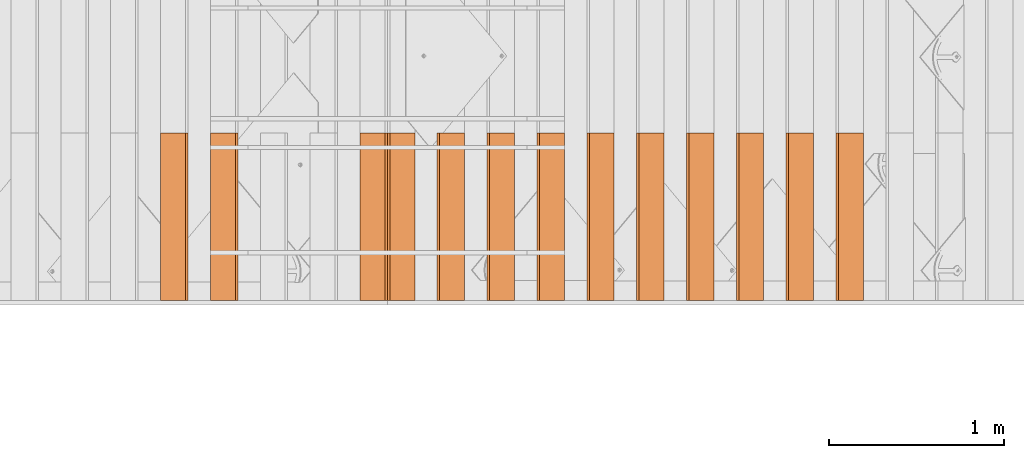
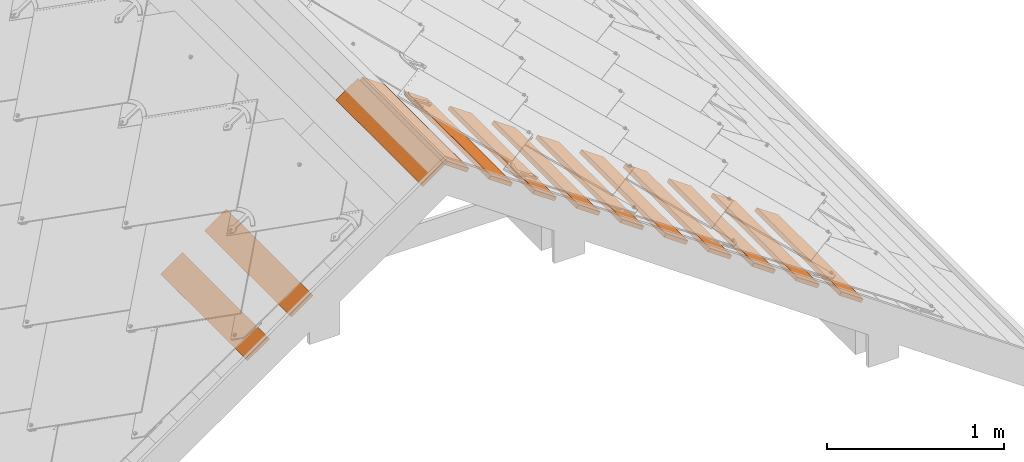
# One storey, part 114 of 151: 13 proxies, 1 element without a shape of its own.
"""IFC2X3 building model written with IfcOpenShell, lengths in millimetres."""

import ifcopenshell
import ifcopenshell.guid

model = None  # the IFC model being written
_history = None  # IfcOwnerHistory: only IFC2X3 demands one
_inside = {}  # id of a spatial element -> (the spatial element, [elements in it])
_under = {}  # id of a project, library or spatial element -> (it, [spatial elements below it])
_declared = {}  # id of a project -> (the project, [libraries it declares])
_typed = {}  # id of a type object -> (the type object, [elements of that type])
_made_of = {}  # id of a material, layer set ... -> (it, [elements and type objects made of it])


def new_model(schema):
    """Start an empty IFC model of exactly this schema.

    Asked for "IFC4X3", IfcOpenShell would pick the latest addendum, in which some entities
    have other attributes; the version numbers below select the first issue.
    IFC2X3 requires an IfcOwnerHistory on every rooted entity: one is made here for all.
    """
    global model, _history
    if schema == "IFC4X3":
        model = ifcopenshell.file(schema_version=(4, 3, 0, 0))
    else:
        model = ifcopenshell.file(schema=schema)
    _inside.clear()
    _under.clear()
    _declared.clear()
    _typed.clear()
    _made_of.clear()
    _history = None
    if model.schema == "IFC2X3":
        org = make("IfcOrganization", Name="unknown")
        user = make(
            "IfcPersonAndOrganization",
            ThePerson=make("IfcPerson", FamilyName="unknown"),
            TheOrganization=org,
        )
        app = make(
            "IfcApplication",
            ApplicationDeveloper=org,
            Version="unknown",
            ApplicationFullName="unknown",
            ApplicationIdentifier="unknown",
        )
        _history = make(
            "IfcOwnerHistory",
            OwningUser=user,
            OwningApplication=app,
            ChangeAction="ADDED",
            CreationDate=0,
        )
    return model


def make(cls, **values):
    """One entity of the class cls with the attributes given. An attribute that is None is left unset."""
    return model.create_entity(
        cls, **{name: value for name, value in values.items() if value is not None}
    )


def entity(cls, *values):
    """Any entity or typed value of the class cls, its attributes in the order of the schema. None: left unset."""
    e = model.create_entity(cls)
    for i, value in enumerate(values):
        if value is not None:
            e[i] = value
    return e


def rooted(cls, **values):
    """An entity with a GlobalId (a new one), such as an element, a storey or a relation."""
    return make(cls, GlobalId=ifcopenshell.guid.new(), OwnerHistory=_history, **values)


def si_unit(unit_type, name, prefix=None):
    """IfcSIUnit, for example si_unit("LENGTHUNIT", "METRE", prefix="MILLI")."""
    return make("IfcSIUnit", UnitType=unit_type, Prefix=prefix, Name=name)


def converted_unit(unit_type, name, factor, base, dimensions=None, offset=None):
    """IfcConversionBasedUnit, such as the inch: factor (a typed value) times the base unit."""
    return make(
        "IfcConversionBasedUnit"
        if offset is None
        else "IfcConversionBasedUnitWithOffset",
        ConversionOffset=offset,
        Dimensions=None
        if dimensions is None
        else entity("IfcDimensionalExponents", *dimensions),
        UnitType=unit_type,
        Name=name,
        ConversionFactor=make(
            "IfcMeasureWithUnit", ValueComponent=factor, UnitComponent=base
        ),
    )


def derived_unit(unit_type, elements):
    """IfcDerivedUnit: a product of units, each with its exponent."""
    return make(
        "IfcDerivedUnit",
        Elements=[
            make("IfcDerivedUnitElement", Unit=unit, Exponent=power)
            for unit, power in elements
        ],
        UnitType=unit_type,
    )


def assignment(units):
    """IfcUnitAssignment: the units of a project."""
    return None if units is None else make("IfcUnitAssignment", Units=units)


def point(xyz):
    """IfcCartesianPoint."""
    return None if xyz is None else make("IfcCartesianPoint", Coordinates=xyz)


def direction(xyz):
    """IfcDirection."""
    return None if xyz is None else make("IfcDirection", DirectionRatios=xyz)


def frame(location, z_axis=None, x_axis=None):
    """IfcAxis2Placement3D, a coordinate frame: its origin and axes. An axis left out is left unset."""
    return make(
        "IfcAxis2Placement3D",
        Location=point(location),
        Axis=direction(z_axis),
        RefDirection=direction(x_axis),
    )


def frame_2d(location, x_axis=None):
    """IfcAxis2Placement2D, a coordinate frame in the plane: its origin and x axis."""
    return make(
        "IfcAxis2Placement2D", Location=point(location), RefDirection=direction(x_axis)
    )


def origin():
    """The frame at (0, 0, 0) with its axes left unset."""
    return frame((0.0, 0.0, 0.0))


def place(relative_to, where):
    """IfcLocalPlacement: puts the frame where relative to a parent placement (None: the world)."""
    return make(
        "IfcLocalPlacement", PlacementRelTo=relative_to, RelativePlacement=where
    )


def context(
    kind, dimensions, precision=None, world=None, true_north=None, identifier=None
):
    """IfcGeometricRepresentationContext, for example the 3D "Model" context."""
    return make(
        "IfcGeometricRepresentationContext",
        ContextIdentifier=identifier,
        ContextType=kind,
        CoordinateSpaceDimension=dimensions,
        Precision=precision,
        WorldCoordinateSystem=world,
        TrueNorth=true_north,
    )


def subcontext(parent, identifier, kind, view, scale=None):
    """IfcGeometricRepresentationSubContext, for example "Body" below "Model"."""
    return make(
        "IfcGeometricRepresentationSubContext",
        ContextIdentifier=identifier,
        ContextType=kind,
        ParentContext=parent,
        TargetScale=scale,
        TargetView=view,
    )


def project(units=None, contexts=None):
    """IfcProject with its units and contexts."""
    return rooted(
        "IfcProject",
        Name="project",
        RepresentationContexts=contexts,
        UnitsInContext=assignment(units),
    )


def spatial(cls, under=None, at=None, **own):
    """A site, building, storey or space (cls), placed at a placement, below another one or the project."""
    s = rooted(cls, ObjectPlacement=at, **own)
    if under is not None:
        _under.setdefault(under.id(), (under, []))[1].append(s)
    return s


def profile(cls, at=None, kind="AREA", **sizes):
    """A parametric profile (cls). Its sizes go by their IFC names, for example OverallWidth=200.0."""
    return make(cls, ProfileType=kind, Position=at, **sizes)


def rectangle(**sizes):
    """IfcRectangleProfileDef."""
    return profile("IfcRectangleProfileDef", **sizes)


def extrude(swept, where, along, depth):
    """IfcExtrudedAreaSolid: the profile swept, set in the frame where, extruded along a direction by depth."""
    return make(
        "IfcExtrudedAreaSolid",
        SweptArea=swept,
        Position=where,
        ExtrudedDirection=direction(along),
        Depth=depth,
    )


def shape(context_of_items, identifier, shape_type, items):
    """IfcShapeRepresentation: the items that make up one representation, for example the "Body"."""
    return make(
        "IfcShapeRepresentation",
        ContextOfItems=context_of_items,
        RepresentationIdentifier=identifier,
        RepresentationType=shape_type,
        Items=items,
    )


def source(mapping_origin, context_of_items, identifier, shape_type, items):
    """IfcRepresentationMap: a shape defined once, which mapped items show again and again."""
    return make(
        "IfcRepresentationMap",
        MappingOrigin=mapping_origin,
        MappedRepresentation=shape(context_of_items, identifier, shape_type, items),
    )


def transform(
    local_origin,
    x_axis=None,
    y_axis=None,
    z_axis=None,
    scale=None,
    scale2=None,
    scale3=None,
    uniform=True,
):
    """IfcCartesianTransformationOperator3D, or its non-uniform kind. x_axis, y_axis, z_axis: its Axis1, 2, 3."""
    if uniform:
        return make(
            "IfcCartesianTransformationOperator3D",
            Axis1=direction(x_axis),
            Axis2=direction(y_axis),
            LocalOrigin=point(local_origin),
            Scale=scale,
            Axis3=direction(z_axis),
        )
    return make(
        "IfcCartesianTransformationOperator3DnonUniform",
        Axis1=direction(x_axis),
        Axis2=direction(y_axis),
        LocalOrigin=point(local_origin),
        Scale=scale,
        Axis3=direction(z_axis),
        Scale2=scale2,
        Scale3=scale3,
    )


def mapped(mapping_source, mapping_target):
    """IfcMappedItem: shows the shape of a source again, moved by a transform."""
    return make(
        "IfcMappedItem", MappingSource=mapping_source, MappingTarget=mapping_target
    )


def material(Name=None, Category=None):
    """IfcMaterial."""
    return make("IfcMaterial", Name=Name, Category=Category)


def made_of(thing, what):
    """Note that an element or type object is made of a material, layer set ...; save() writes the relation."""
    if what is not None:
        _made_of.setdefault(what.id(), (what, []))[1].append(thing)
    return thing


def type_object(cls, material=None, **own):
    """A type object (cls), such as IfcWallType, which elements share."""
    return made_of(rooted(cls, **own), material)


def type_shapes(of_type, sources):
    """Give a type object the sources (RepresentationMaps) that its elements show as mapped items."""
    of_type.RepresentationMaps = sources


def element(
    cls,
    number,
    at=None,
    inside=None,
    cuts=None,
    type_object=None,
    material=None,
    context=None,
    identifier="Body",
    shape_type=None,
    held_by="IfcProductDefinitionShape",
    body=None,
    shapes=None,
    **own,
):
    """One element of the class cls, such as IfcWall. Its Tag is "e" and its number.

    at: its placement. inside: the storey or other place that contains it. cuts: it is an
    opening in that element (IfcRelVoidsElement). A single representation is given by context,
    identifier, shape_type and body (its items); several are given by shapes. held_by: the class
    of the entity that holds the representations. save() writes the other relations.
    """
    e = rooted(cls, Tag="e%d" % number, ObjectPlacement=at, **own)
    if body is not None:
        shapes = [shape(context, identifier, shape_type, body)]
    if shapes is not None:
        e.Representation = make(held_by, Representations=shapes)
    if inside is not None:
        _inside.setdefault(inside.id(), (inside, []))[1].append(e)
    if cuts is not None:
        rooted(
            "IfcRelVoidsElement", RelatingBuildingElement=cuts, RelatedOpeningElement=e
        )
    if type_object is not None:
        _typed.setdefault(type_object.id(), (type_object, []))[1].append(e)
    return made_of(e, material)


def aggregate(whole, parts):
    """IfcRelAggregates: a whole, such as a stair, and the parts it consists of."""
    return rooted("IfcRelAggregates", RelatingObject=whole, RelatedObjects=parts)


def save(model, path):
    """Write the relations noted so far, then the file.

    IfcRelAggregates (storeys below a building ...), IfcRelContainedInSpatialStructure (elements
    in a storey), IfcRelDefinesByType, IfcRelAssociatesMaterial and IfcRelDeclares: one each for
    every whole, place, type object, material and project.
    """
    for whole, parts in _under.values():
        aggregate(whole, parts)
    for where, things in _inside.values():
        rooted(
            "IfcRelContainedInSpatialStructure",
            RelatedElements=things,
            RelatingStructure=where,
        )
    for kind, things in _typed.values():
        rooted("IfcRelDefinesByType", RelatedObjects=things, RelatingType=kind)
    for what, things in _made_of.values():
        rooted("IfcRelAssociatesMaterial", RelatedObjects=things, RelatingMaterial=what)
    for by, libraries in _declared.values():
        rooted("IfcRelDeclares", RelatingContext=by, RelatedDefinitions=libraries)
    model.write(path)


model = new_model("IFC2X3")

# Units and contexts
model_context = context("Model", 3, precision=0.01, world=origin(), true_north=direction((6.12303176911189e-17, 1.0)))
body_context = subcontext(model_context, "Body", "Model", "MODEL_VIEW")
ifc_project = project(units=[si_unit("LENGTHUNIT", "METRE", prefix="MILLI"), si_unit("AREAUNIT", "SQUARE_METRE"), si_unit("VOLUMEUNIT", "CUBIC_METRE"), converted_unit("PLANEANGLEUNIT", "DEGREE", entity("IfcRatioMeasure", 0.0174532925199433), si_unit("PLANEANGLEUNIT", "RADIAN"), dimensions=[0, 0, 0, 0, 0, 0, 0]), si_unit("MASSUNIT", "GRAM", prefix="KILO"), derived_unit("MASSDENSITYUNIT", [(si_unit("MASSUNIT", "GRAM", prefix="KILO"), 1), (si_unit("LENGTHUNIT", "METRE"), -3)]), si_unit("TIMEUNIT", "SECOND"), si_unit("FREQUENCYUNIT", "HERTZ"), si_unit("THERMODYNAMICTEMPERATUREUNIT", "DEGREE_CELSIUS"), derived_unit("THERMALTRANSMITTANCEUNIT", [(si_unit("MASSUNIT", "GRAM", prefix="KILO"), 1), (si_unit("THERMODYNAMICTEMPERATUREUNIT", "KELVIN"), -1), (si_unit("TIMEUNIT", "SECOND"), -3)]), derived_unit("VOLUMETRICFLOWRATEUNIT", [(si_unit("LENGTHUNIT", "METRE"), 3), (si_unit("TIMEUNIT", "SECOND"), -1)]), si_unit("ELECTRICCURRENTUNIT", "AMPERE"), si_unit("ELECTRICVOLTAGEUNIT", "VOLT"), si_unit("POWERUNIT", "WATT"), si_unit("FORCEUNIT", "NEWTON", prefix="KILO"), si_unit("ILLUMINANCEUNIT", "LUX"), si_unit("LUMINOUSFLUXUNIT", "LUMEN"), si_unit("LUMINOUSINTENSITYUNIT", "CANDELA"), derived_unit("USERDEFINED", [(si_unit("MASSUNIT", "GRAM", prefix="KILO"), -1), (si_unit("LENGTHUNIT", "METRE"), -2), (si_unit("TIMEUNIT", "SECOND"), 3), (si_unit("LUMINOUSFLUXUNIT", "LUMEN"), 1)]), derived_unit("LINEARVELOCITYUNIT", [(si_unit("LENGTHUNIT", "METRE"), 1), (si_unit("TIMEUNIT", "SECOND"), -1)]), si_unit("PRESSUREUNIT", "PASCAL"), derived_unit("USERDEFINED", [(si_unit("LENGTHUNIT", "METRE"), -2), (si_unit("MASSUNIT", "GRAM", prefix="KILO"), 1), (si_unit("TIMEUNIT", "SECOND"), -2)])], contexts=[model_context])

# Site, building, storey
site_placement = place(None, origin())
site = spatial("IfcSite", under=ifc_project, at=site_placement, Name="Default", CompositionType="ELEMENT")
building_placement = place(site_placement, origin())
building = spatial("IfcBuilding", under=site, at=building_placement, CompositionType="ELEMENT")
storey_placement = place(building_placement, origin())
storey = spatial("IfcBuildingStorey", under=building, at=storey_placement, Name="Level 1", CompositionType="ELEMENT", Elevation=0.0)

# Assembly, proxies
assembly_placement = place(storey_placement, origin())
assembly = element("IfcElementAssembly", 1, at=assembly_placement, inside=storey, Name="Structural Framing Assembly:Roof Construction Assembly", ObjectType="Structural Framing Assembly:Roof Construction Assembly", AssemblyPlace="NOTDEFINED", PredefinedType="USERDEFINED")
ifc_material = material(Name="Wood - Generic - Wood For Showcase")
building_element_proxy_type_1 = type_object("IfcBuildingElementProxyType", Name="Structural Framing 15", PredefinedType="NOTDEFINED", material=ifc_material)
shared_shape_1 = source(origin(), body_context, "Body", "SweptSolid", [
    extrude(rectangle(XDim=24.9999999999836, YDim=174.344679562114, at=frame_2d((3.79252185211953e-13, 7.105427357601e-14), x_axis=(1.0, 0.0))), frame((1285.3560130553, 2967.09519417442, 2760.23940055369), z_axis=(0.0, 1.0, 0.0), x_axis=(0.573576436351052, 0.0, 0.819152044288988)), (0.0, 0.0, 1.0), 958.455607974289),
])
type_shapes(building_element_proxy_type_1, [shared_shape_1])
proxy_1_placement = place(assembly_placement, frame((57.4878711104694, -9670.0, 0.0)))
proxy_1 = element("IfcBuildingElementProxy", 2, at=proxy_1_placement, type_object=building_element_proxy_type_1, material=ifc_material, Name="Structural Framing 159:Structural Framing 15", ObjectType="Structural Framing 159:Structural Framing 15", context=body_context, shape_type="MappedRepresentation", body=[
    mapped(shared_shape_1, transform((0.0, 0.0, 0.0), scale=1.0)),
])
building_element_proxy_type_2 = type_object("IfcBuildingElementProxyType", Name="Structural Framing 15", PredefinedType="NOTDEFINED", material=ifc_material)
shared_shape_2 = source(origin(), body_context, "Body", "SweptSolid", [
    extrude(rectangle(XDim=24.9999999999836, YDim=174.344679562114, at=frame_2d((3.79252185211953e-13, 7.105427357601e-14), x_axis=(1.0, 0.0))), frame((1285.3560130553, 2967.09519417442, 2760.23940055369), z_axis=(0.0, 1.0, 0.0), x_axis=(0.573576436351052, 0.0, 0.819152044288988)), (0.0, 0.0, 1.0), 958.455607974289),
])
type_shapes(building_element_proxy_type_2, [shared_shape_2])
proxy_2_placement = place(assembly_placement, frame((343.11747245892, -9670.0, -200.0)))
proxy_2 = element("IfcBuildingElementProxy", 3, at=proxy_2_placement, type_object=building_element_proxy_type_2, material=ifc_material, Name="Structural Framing 169:Structural Framing 15", ObjectType="Structural Framing 169:Structural Framing 15", context=body_context, shape_type="MappedRepresentation", body=[
    mapped(shared_shape_2, transform((0.0, 0.0, 0.0), scale=1.0)),
])
building_element_proxy_type_3 = type_object("IfcBuildingElementProxyType", Name="Structural Framing 15", PredefinedType="NOTDEFINED", material=ifc_material)
shared_shape_3 = source(origin(), body_context, "Body", "SweptSolid", [
    extrude(rectangle(XDim=24.9999999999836, YDim=174.344679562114, at=frame_2d((3.79252185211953e-13, 7.105427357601e-14), x_axis=(1.0, 0.0))), frame((1285.3560130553, 2967.09519417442, 2760.23940055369), z_axis=(0.0, 1.0, 0.0), x_axis=(0.573576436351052, 0.0, 0.819152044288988)), (0.0, 0.0, 1.0), 958.455607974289),
])
type_shapes(building_element_proxy_type_3, [shared_shape_3])
proxy_3_placement = place(assembly_placement, frame((628.747073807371, -9670.0, -400.0)))
proxy_3 = element("IfcBuildingElementProxy", 4, at=proxy_3_placement, type_object=building_element_proxy_type_3, material=ifc_material, Name="Structural Framing 179:Structural Framing 15", ObjectType="Structural Framing 179:Structural Framing 15", context=body_context, shape_type="MappedRepresentation", body=[
    mapped(shared_shape_3, transform((0.0, 0.0, 0.0), scale=1.0)),
])
building_element_proxy_type_4 = type_object("IfcBuildingElementProxyType", Name="Structural Framing 15", PredefinedType="NOTDEFINED", material=ifc_material)
shared_shape_4 = source(origin(), body_context, "Body", "SweptSolid", [
    extrude(rectangle(XDim=24.9999999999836, YDim=174.344679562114, at=frame_2d((3.79252185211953e-13, 7.105427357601e-14), x_axis=(1.0, 0.0))), frame((1285.3560130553, 2967.09519417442, 2760.23940055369), z_axis=(0.0, 1.0, 0.0), x_axis=(0.573576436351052, 0.0, 0.819152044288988)), (0.0, 0.0, 1.0), 958.455607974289),
])
type_shapes(building_element_proxy_type_4, [shared_shape_4])
proxy_4_placement = place(assembly_placement, frame((914.376675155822, -9670.0, -600.0)))
proxy_4 = element("IfcBuildingElementProxy", 5, at=proxy_4_placement, type_object=building_element_proxy_type_4, material=ifc_material, Name="Structural Framing 189:Structural Framing 15", ObjectType="Structural Framing 189:Structural Framing 15", context=body_context, shape_type="MappedRepresentation", body=[
    mapped(shared_shape_4, transform((0.0, 0.0, 0.0), scale=1.0)),
])
building_element_proxy_type_5 = type_object("IfcBuildingElementProxyType", Name="Structural Framing 15", PredefinedType="NOTDEFINED", material=ifc_material)
shared_shape_5 = source(origin(), body_context, "Body", "SweptSolid", [
    extrude(rectangle(XDim=24.9999999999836, YDim=174.344679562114, at=frame_2d((3.79252185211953e-13, 7.105427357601e-14), x_axis=(1.0, 0.0))), frame((1285.3560130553, 2967.09519417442, 2760.23940055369), z_axis=(0.0, 1.0, 0.0), x_axis=(0.573576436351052, 0.0, 0.819152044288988)), (0.0, 0.0, 1.0), 958.455607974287),
])
type_shapes(building_element_proxy_type_5, [shared_shape_5])
proxy_5_placement = place(assembly_placement, frame((1200.00627650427, -9670.0, -800.0)))
proxy_5 = element("IfcBuildingElementProxy", 6, at=proxy_5_placement, type_object=building_element_proxy_type_5, material=ifc_material, Name="Structural Framing 199:Structural Framing 15", ObjectType="Structural Framing 199:Structural Framing 15", context=body_context, shape_type="MappedRepresentation", body=[
    mapped(shared_shape_5, transform((0.0, 0.0, 0.0), scale=1.0)),
])
building_element_proxy_type_6 = type_object("IfcBuildingElementProxyType", Name="Structural Framing 15", PredefinedType="NOTDEFINED", material=ifc_material)
shared_shape_6 = source(origin(), body_context, "Body", "SweptSolid", [
    extrude(rectangle(XDim=24.9999999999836, YDim=174.344679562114, at=frame_2d((3.79252185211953e-13, 7.105427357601e-14), x_axis=(1.0, 0.0))), frame((1285.3560130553, 2967.09519417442, 2760.23940055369), z_axis=(0.0, 1.0, 0.0), x_axis=(0.573576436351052, 0.0, 0.819152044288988)), (0.0, 0.0, 1.0), 958.455607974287),
])
type_shapes(building_element_proxy_type_6, [shared_shape_6])
proxy_6_placement = place(assembly_placement, frame((1485.63587785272, -9670.0, -1000.0)))
proxy_6 = element("IfcBuildingElementProxy", 7, at=proxy_6_placement, type_object=building_element_proxy_type_6, material=ifc_material, Name="Structural Framing 209:Structural Framing 15", ObjectType="Structural Framing 209:Structural Framing 15", context=body_context, shape_type="MappedRepresentation", body=[
    mapped(shared_shape_6, transform((0.0, 0.0, 0.0), scale=1.0)),
])
building_element_proxy_type_7 = type_object("IfcBuildingElementProxyType", Name="Structural Framing 15", PredefinedType="NOTDEFINED", material=ifc_material)
shared_shape_7 = source(origin(), body_context, "Body", "SweptSolid", [
    extrude(rectangle(XDim=24.9999999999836, YDim=174.344679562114, at=frame_2d((3.79252185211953e-13, 7.105427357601e-14), x_axis=(1.0, 0.0))), frame((1285.3560130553, 2967.09519417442, 2760.23940055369), z_axis=(0.0, 1.0, 0.0), x_axis=(0.573576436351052, 0.0, 0.819152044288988)), (0.0, 0.0, 1.0), 958.455607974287),
])
type_shapes(building_element_proxy_type_7, [shared_shape_7])
proxy_7_placement = place(assembly_placement, frame((1771.26547920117, -9670.0, -1200.0)))
proxy_7 = element("IfcBuildingElementProxy", 8, at=proxy_7_placement, type_object=building_element_proxy_type_7, material=ifc_material, Name="Structural Framing 219:Structural Framing 15", ObjectType="Structural Framing 219:Structural Framing 15", context=body_context, shape_type="MappedRepresentation", body=[
    mapped(shared_shape_7, transform((0.0, 0.0, 0.0), scale=1.0)),
])
building_element_proxy_type_8 = type_object("IfcBuildingElementProxyType", Name="Structural Framing 15", PredefinedType="NOTDEFINED", material=ifc_material)
shared_shape_8 = source(origin(), body_context, "Body", "SweptSolid", [
    extrude(rectangle(XDim=24.9999999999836, YDim=174.344679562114, at=frame_2d((3.79252185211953e-13, 7.105427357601e-14), x_axis=(1.0, 0.0))), frame((1285.3560130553, 2967.09519417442, 2760.23940055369), z_axis=(0.0, 1.0, 0.0), x_axis=(0.573576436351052, 0.0, 0.819152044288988)), (0.0, 0.0, 1.0), 958.455607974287),
])
type_shapes(building_element_proxy_type_8, [shared_shape_8])
proxy_8_placement = place(assembly_placement, frame((2056.89508054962, -9670.0, -1400.0)))
proxy_8 = element("IfcBuildingElementProxy", 9, at=proxy_8_placement, type_object=building_element_proxy_type_8, material=ifc_material, Name="Structural Framing 229:Structural Framing 15", ObjectType="Structural Framing 229:Structural Framing 15", context=body_context, shape_type="MappedRepresentation", body=[
    mapped(shared_shape_8, transform((0.0, 0.0, 0.0), scale=1.0)),
])
building_element_proxy_type_9 = type_object("IfcBuildingElementProxyType", Name="Structural Framing 15", PredefinedType="NOTDEFINED", material=ifc_material)
shared_shape_9 = source(origin(), body_context, "Body", "SweptSolid", [
    extrude(rectangle(XDim=24.9999999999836, YDim=174.344679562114, at=frame_2d((3.79252185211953e-13, 7.105427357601e-14), x_axis=(1.0, 0.0))), frame((1285.3560130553, 2967.09519417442, 2760.23940055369), z_axis=(0.0, 1.0, 0.0), x_axis=(0.573576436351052, 0.0, 0.819152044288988)), (0.0, 0.0, 1.0), 958.455607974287),
])
type_shapes(building_element_proxy_type_9, [shared_shape_9])
proxy_9_placement = place(assembly_placement, frame((2342.52468189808, -9670.0, -1600.0)))
proxy_9 = element("IfcBuildingElementProxy", 10, at=proxy_9_placement, type_object=building_element_proxy_type_9, material=ifc_material, Name="Structural Framing 239:Structural Framing 15", ObjectType="Structural Framing 239:Structural Framing 15", context=body_context, shape_type="MappedRepresentation", body=[
    mapped(shared_shape_9, transform((0.0, 0.0, 0.0), scale=1.0)),
])
building_element_proxy_type_10 = type_object("IfcBuildingElementProxyType", Name="Structural Framing 15", PredefinedType="NOTDEFINED", material=ifc_material)
shared_shape_10 = source(origin(), body_context, "Body", "SweptSolid", [
    extrude(rectangle(XDim=24.9999999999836, YDim=174.344679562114, at=frame_2d((3.79252185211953e-13, 7.105427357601e-14), x_axis=(1.0, 0.0))), frame((1285.3560130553, 2967.09519417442, 2760.23940055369), z_axis=(0.0, 1.0, 0.0), x_axis=(0.573576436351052, 0.0, 0.819152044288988)), (0.0, 0.0, 1.0), 958.455607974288),
])
type_shapes(building_element_proxy_type_10, [shared_shape_10])
proxy_10_placement = place(assembly_placement, frame((2628.15428324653, -9670.0, -1800.0)))
proxy_10 = element("IfcBuildingElementProxy", 11, at=proxy_10_placement, type_object=building_element_proxy_type_10, material=ifc_material, Name="Structural Framing 249:Structural Framing 15", ObjectType="Structural Framing 249:Structural Framing 15", context=body_context, shape_type="MappedRepresentation", body=[
    mapped(shared_shape_10, transform((0.0, 0.0, 0.0), scale=1.0)),
])
building_element_proxy_type_11 = type_object("IfcBuildingElementProxyType", Name="Structural Framing 15", PredefinedType="NOTDEFINED", material=ifc_material)
shared_shape_11 = source(origin(), body_context, "Body", "SweptSolid", [
    extrude(rectangle(XDim=24.9999999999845, YDim=174.344679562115, at=frame_2d((-1.77635683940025e-13, -4.54747350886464e-13), x_axis=(0.0, 1.0))), frame((1128.20180147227, 2967.09519417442, 2760.23940055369), z_axis=(0.0, 1.0, 0.0), x_axis=(-0.819152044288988, 0.0, -0.573576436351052)), (0.0, 0.0, 1.0), 958.455607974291),
])
type_shapes(building_element_proxy_type_11, [shared_shape_11])
proxy_11_placement = place(assembly_placement, frame((57.4878711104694, -9670.0, 0.0)))
proxy_11 = element("IfcBuildingElementProxy", 12, at=proxy_11_placement, type_object=building_element_proxy_type_11, material=ifc_material, Name="Structural Framing 19:Structural Framing 15", ObjectType="Structural Framing 19:Structural Framing 15", context=body_context, shape_type="MappedRepresentation", body=[
    mapped(shared_shape_11, transform((0.0, 0.0, 0.0), scale=1.0)),
])
building_element_proxy_type_12 = type_object("IfcBuildingElementProxyType", Name="Structural Framing 15", PredefinedType="NOTDEFINED", material=ifc_material)
shared_shape_12 = source(origin(), body_context, "Body", "SweptSolid", [
    extrude(rectangle(XDim=24.9999999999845, YDim=174.344679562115, at=frame_2d((-1.77635683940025e-13, -4.54747350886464e-13), x_axis=(0.0, 1.0))), frame((1128.20180147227, 2967.09519417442, 2760.23940055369), z_axis=(0.0, 1.0, 0.0), x_axis=(-0.819152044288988, 0.0, -0.573576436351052)), (0.0, 0.0, 1.0), 958.455607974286),
])
type_shapes(building_element_proxy_type_12, [shared_shape_12])
proxy_12_placement = place(assembly_placement, frame((-799.400932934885, -9670.0, -600.0)))
proxy_12 = element("IfcBuildingElementProxy", 13, at=proxy_12_placement, type_object=building_element_proxy_type_12, material=ifc_material, Name="Structural Framing 49:Structural Framing 15", ObjectType="Structural Framing 49:Structural Framing 15", context=body_context, shape_type="MappedRepresentation", body=[
    mapped(shared_shape_12, transform((0.0, 0.0, 0.0), scale=1.0)),
])
building_element_proxy_type_13 = type_object("IfcBuildingElementProxyType", Name="Structural Framing 15", PredefinedType="NOTDEFINED", material=ifc_material)
shared_shape_13 = source(origin(), body_context, "Body", "SweptSolid", [
    extrude(rectangle(XDim=24.9999999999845, YDim=174.344679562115, at=frame_2d((-1.77635683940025e-13, -4.54747350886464e-13), x_axis=(0.0, 1.0))), frame((1128.20180147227, 2967.09519417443, 2760.23940055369), z_axis=(0.0, 1.0, 0.0), x_axis=(-0.819152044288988, 0.0, -0.573576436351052)), (0.0, 0.0, 1.0), 958.455607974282),
])
type_shapes(building_element_proxy_type_13, [shared_shape_13])
proxy_13_placement = place(assembly_placement, frame((-1085.03053428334, -9670.0, -800.0)))
proxy_13 = element("IfcBuildingElementProxy", 14, at=proxy_13_placement, type_object=building_element_proxy_type_13, material=ifc_material, Name="Structural Framing 59:Structural Framing 15", ObjectType="Structural Framing 59:Structural Framing 15", context=body_context, shape_type="MappedRepresentation", body=[
    mapped(shared_shape_13, transform((0.0, 0.0, 0.0), scale=1.0)),
])
aggregate(assembly, [proxy_1, proxy_2, proxy_3, proxy_4, proxy_5, proxy_6, proxy_7, proxy_8, proxy_9, proxy_10, proxy_11, proxy_12, proxy_13])

save(model, "model.ifc")
